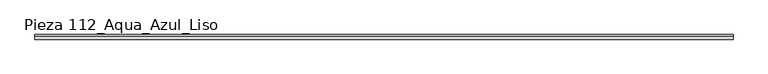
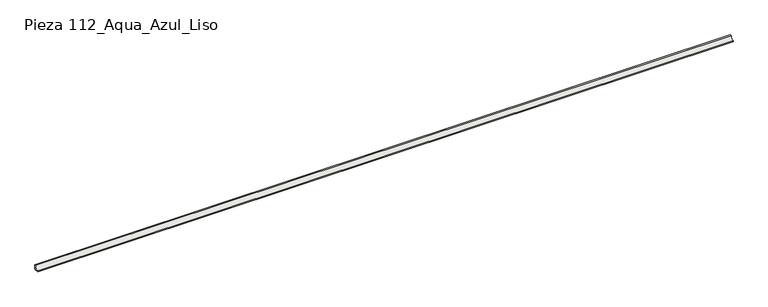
"""IFC4 building model written with IfcOpenShell, lengths in millimetres: slab geometry, ROSA GRES_112 : Pieza 112_Aqua_Azul_Liso."""

from ifc_helpers import new_model, si_unit, point, frame, frame_2d, origin, place, context, project, spatial, polyline, circle_curve, trimmed, segment, composite_curve, outline, extrude, source, transform, mapped, element, save


def pieza_112_aqua_azul_liso_2e144e22(model_context):
    return source(origin(), model_context, "Body", "SweptSolid", [
        extrude(outline(composite_curve([segment(polyline([(0.0, 8.7114978), (-8.7114978, 0.0), (-40.0, 0.0), (-40.0, 9.9734114)]), True, "CONTINUOUS"), segment(trimmed(circle_curve(frame_2d((-39.9955547, 39.9955547)), 30.0221435), [point((-40.0, 9.9734114))], [point((-9.9734114, 40.0))], True, "CARTESIAN"), True, "CONTINUOUS"), segment(polyline([(-9.9734114, 40.0), (0.0, 40.0), (0.0, 8.7114978)]), True, "CONTINUOUS")], self_intersect=False)), frame((0.0, 0.0, 0.0), z_axis=(1.0, 0.0, 0.0), x_axis=(0.0, 1.0, 0.0)), (0.0, 0.0, 1.0), 6000.0),
    ])


if __name__ == "__main__":
    model = new_model("IFC4")
    model_context = context("Model", 3, world=origin())
    ifc_project = project(units=[si_unit("LENGTHUNIT", "METRE", prefix="MILLI")], contexts=[model_context])
    site = spatial("IfcSite", under=ifc_project)
    building = spatial("IfcBuilding", under=site)
    placement = place(None, origin())
    pieza_112_aqua_azul_liso_shape = pieza_112_aqua_azul_liso_2e144e22(model_context)
    element("IfcSlab", 1, ObjectType="ROSA GRES_112 : Pieza 112_Aqua_Azul_Liso", at=placement, inside=building, context=model_context, shape_type="MappedRepresentation", body=[
        mapped(pieza_112_aqua_azul_liso_shape, transform((0.0, 0.0, 0.0), x_axis=(1.0, 0.0, 0.0), y_axis=(0.0, 1.0, 0.0), z_axis=(0.0, 0.0, 1.0))),
    ])
    save(model, "model.ifc")
